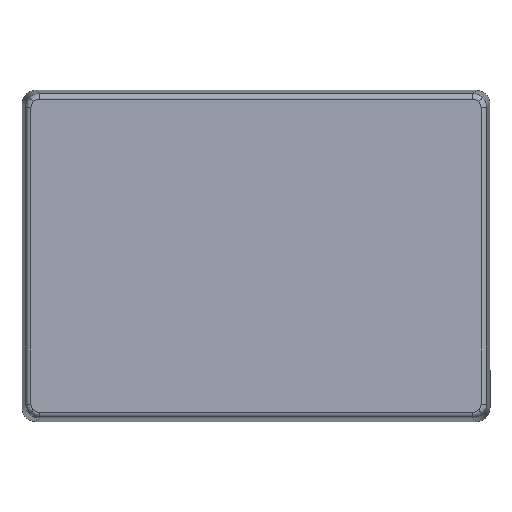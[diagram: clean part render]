
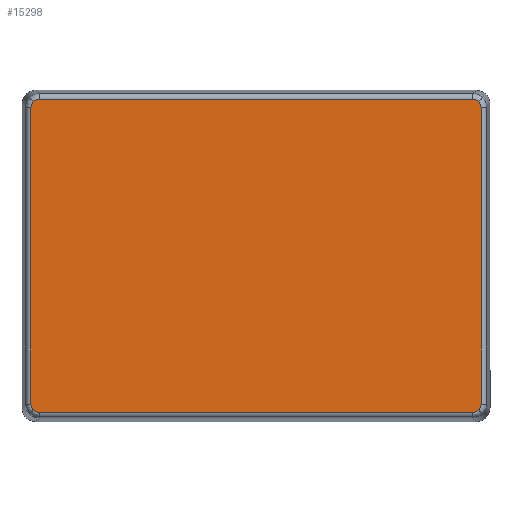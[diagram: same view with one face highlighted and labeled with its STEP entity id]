
A CAD part, top view. The second image highlights one B-rep face of the part: STEP entity #15298.
In plain terms, the highlighted planar face has unit normal (0, 0, 1).
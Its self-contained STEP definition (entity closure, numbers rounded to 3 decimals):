
#540=LINE('',#22723,#1702);
#541=LINE('',#22732,#1703);
#542=LINE('',#22741,#1704);
#543=LINE('',#22750,#1705);
#1702=VECTOR('',#17424,158.434);
#1703=VECTOR('',#17425,108.434);
#1704=VECTOR('',#17426,158.434);
#1705=VECTOR('',#17427,108.434);
#2767=PLANE('',#16249);
#3080=B_SPLINE_CURVE_WITH_KNOTS('',3,(#20508,#20509,#20510,#20511,#20512,
#20513,#20514),.UNSPECIFIED.,.F.,.F.,(4,3,4),(5.498,6.268,
6.283),.UNSPECIFIED.);
#3081=B_SPLINE_CURVE_WITH_KNOTS('',3,(#20543,#20544,#20545,#20546,#20547,
#20548,#20549),.UNSPECIFIED.,.F.,.F.,(4,3,4),(5.498,6.268,
6.283),.UNSPECIFIED.);
#3082=B_SPLINE_CURVE_WITH_KNOTS('',3,(#20578,#20579,#20580,#20581,#20582,
#20583,#20584),.UNSPECIFIED.,.F.,.F.,(4,3,4),(5.498,6.268,
6.283),.UNSPECIFIED.);
#3083=B_SPLINE_CURVE_WITH_KNOTS('',3,(#20613,#20614,#20615,#20616,#20617,
#20618,#20619),.UNSPECIFIED.,.F.,.F.,(4,3,4),(5.498,6.268,
6.283),.UNSPECIFIED.);
#3223=B_SPLINE_CURVE_WITH_KNOTS('',3,(#22725,#22726,#22727,#22728,#22729,
#22730,#22731),.UNSPECIFIED.,.F.,.F.,(4,3,4),(0.,0.769,0.785),
 .UNSPECIFIED.);
#3224=B_SPLINE_CURVE_WITH_KNOTS('',3,(#22734,#22735,#22736,#22737,#22738,
#22739,#22740),.UNSPECIFIED.,.F.,.F.,(4,3,4),(0.,0.769,0.785),
 .UNSPECIFIED.);
#3225=B_SPLINE_CURVE_WITH_KNOTS('',3,(#22743,#22744,#22745,#22746,#22747,
#22748,#22749),.UNSPECIFIED.,.F.,.F.,(4,3,4),(0.,0.769,
0.785),.UNSPECIFIED.);
#3226=B_SPLINE_CURVE_WITH_KNOTS('',3,(#22751,#22752,#22753,#22754,#22755,
#22756,#22757),.UNSPECIFIED.,.F.,.F.,(4,3,4),(0.,0.769,0.785),
 .UNSPECIFIED.);
#4129=FACE_OUTER_BOUND('',#5073,.T.);
#5073=EDGE_LOOP('',(#10721,#10722,#10723,#10724,#10725,#10726,#10727,#10728,
#10729,#10730,#10731,#10732));
#6508=VERTEX_POINT('',#20505);
#6509=VERTEX_POINT('',#20507);
#6512=VERTEX_POINT('',#20540);
#6513=VERTEX_POINT('',#20542);
#6516=VERTEX_POINT('',#20575);
#6517=VERTEX_POINT('',#20577);
#6520=VERTEX_POINT('',#20610);
#6521=VERTEX_POINT('',#20612);
#6763=VERTEX_POINT('',#22722);
#6764=VERTEX_POINT('',#22724);
#6765=VERTEX_POINT('',#22733);
#6766=VERTEX_POINT('',#22742);
#8073=EDGE_CURVE('',#6509,#6508,#3080,.T.);
#8077=EDGE_CURVE('',#6513,#6512,#3081,.T.);
#8081=EDGE_CURVE('',#6517,#6516,#3082,.T.);
#8085=EDGE_CURVE('',#6521,#6520,#3083,.T.);
#8332=EDGE_CURVE('',#6763,#6509,#540,.T.);
#8333=EDGE_CURVE('',#6508,#6764,#3223,.T.);
#8334=EDGE_CURVE('',#6764,#6513,#541,.T.);
#8335=EDGE_CURVE('',#6512,#6765,#3224,.T.);
#8336=EDGE_CURVE('',#6765,#6521,#542,.T.);
#8337=EDGE_CURVE('',#6520,#6766,#3225,.T.);
#8338=EDGE_CURVE('',#6766,#6517,#543,.T.);
#8339=EDGE_CURVE('',#6516,#6763,#3226,.T.);
#10721=ORIENTED_EDGE('',*,*,#8332,.T.);
#10722=ORIENTED_EDGE('',*,*,#8073,.T.);
#10723=ORIENTED_EDGE('',*,*,#8333,.T.);
#10724=ORIENTED_EDGE('',*,*,#8334,.T.);
#10725=ORIENTED_EDGE('',*,*,#8077,.T.);
#10726=ORIENTED_EDGE('',*,*,#8335,.T.);
#10727=ORIENTED_EDGE('',*,*,#8336,.T.);
#10728=ORIENTED_EDGE('',*,*,#8085,.T.);
#10729=ORIENTED_EDGE('',*,*,#8337,.T.);
#10730=ORIENTED_EDGE('',*,*,#8338,.T.);
#10731=ORIENTED_EDGE('',*,*,#8081,.T.);
#10732=ORIENTED_EDGE('',*,*,#8339,.T.);
#15298=ADVANCED_FACE('',(#4129),#2767,.T.);
#16249=AXIS2_PLACEMENT_3D('',#22721,#17422,#17423);
#17422=DIRECTION('center_axis',(0.,0.,1.));
#17423=DIRECTION('ref_axis',(1.,0.,0.));
#17424=DIRECTION('',(-1.,0.,0.));
#17425=DIRECTION('',(0.,-1.,0.));
#17426=DIRECTION('',(1.,0.,0.));
#17427=DIRECTION('',(0.,1.,0.));
#20505=CARTESIAN_POINT('',(-81.338,56.338,51.));
#20507=CARTESIAN_POINT('',(-79.217,57.216,51.));
#20508=CARTESIAN_POINT('Ctrl Pts',(-79.217,57.216,51.));
#20509=CARTESIAN_POINT('Ctrl Pts',(-79.967,57.216,51.));
#20510=CARTESIAN_POINT('Ctrl Pts',(-80.766,56.893,51.));
#20511=CARTESIAN_POINT('Ctrl Pts',(-81.306,56.37,51.));
#20512=CARTESIAN_POINT('Ctrl Pts',(-81.317,56.359,51.));
#20513=CARTESIAN_POINT('Ctrl Pts',(-81.327,56.349,51.));
#20514=CARTESIAN_POINT('Ctrl Pts',(-81.338,56.338,51.));
#20540=CARTESIAN_POINT('',(-81.338,-56.338,51.));
#20542=CARTESIAN_POINT('',(-82.216,-54.217,51.));
#20543=CARTESIAN_POINT('Ctrl Pts',(-82.216,-54.217,
51.));
#20544=CARTESIAN_POINT('Ctrl Pts',(-82.216,-54.967,
51.));
#20545=CARTESIAN_POINT('Ctrl Pts',(-81.893,-55.766,
51.));
#20546=CARTESIAN_POINT('Ctrl Pts',(-81.37,-56.306,
51.));
#20547=CARTESIAN_POINT('Ctrl Pts',(-81.359,-56.317,
51.));
#20548=CARTESIAN_POINT('Ctrl Pts',(-81.349,-56.327,51.));
#20549=CARTESIAN_POINT('Ctrl Pts',(-81.338,-56.338,
51.));
#20575=CARTESIAN_POINT('',(81.338,56.338,51.));
#20577=CARTESIAN_POINT('',(82.216,54.217,51.));
#20578=CARTESIAN_POINT('Ctrl Pts',(82.216,54.217,51.));
#20579=CARTESIAN_POINT('Ctrl Pts',(82.216,54.967,51.));
#20580=CARTESIAN_POINT('Ctrl Pts',(81.893,55.766,51.));
#20581=CARTESIAN_POINT('Ctrl Pts',(81.37,56.306,51.));
#20582=CARTESIAN_POINT('Ctrl Pts',(81.359,56.317,51.));
#20583=CARTESIAN_POINT('Ctrl Pts',(81.349,56.327,51.));
#20584=CARTESIAN_POINT('Ctrl Pts',(81.338,56.338,51.));
#20610=CARTESIAN_POINT('',(81.338,-56.338,51.));
#20612=CARTESIAN_POINT('',(79.217,-57.216,51.));
#20613=CARTESIAN_POINT('Ctrl Pts',(79.217,-57.216,51.));
#20614=CARTESIAN_POINT('Ctrl Pts',(79.967,-57.216,51.));
#20615=CARTESIAN_POINT('Ctrl Pts',(80.766,-56.893,51.));
#20616=CARTESIAN_POINT('Ctrl Pts',(81.306,-56.37,51.));
#20617=CARTESIAN_POINT('Ctrl Pts',(81.317,-56.359,51.));
#20618=CARTESIAN_POINT('Ctrl Pts',(81.327,-56.349,51.));
#20619=CARTESIAN_POINT('Ctrl Pts',(81.338,-56.338,51.));
#22721=CARTESIAN_POINT('Origin',(-85.5,-60.5,51.));
#22722=CARTESIAN_POINT('',(79.217,57.216,51.));
#22723=CARTESIAN_POINT('',(79.217,57.216,51.));
#22724=CARTESIAN_POINT('',(-82.216,54.217,51.));
#22725=CARTESIAN_POINT('Ctrl Pts',(-81.338,56.338,51.));
#22726=CARTESIAN_POINT('Ctrl Pts',(-81.868,55.808,51.));
#22727=CARTESIAN_POINT('Ctrl Pts',(-82.204,55.016,51.));
#22728=CARTESIAN_POINT('Ctrl Pts',(-82.216,54.264,51.));
#22729=CARTESIAN_POINT('Ctrl Pts',(-82.216,54.248,51.));
#22730=CARTESIAN_POINT('Ctrl Pts',(-82.216,54.233,51.));
#22731=CARTESIAN_POINT('Ctrl Pts',(-82.216,54.217,51.));
#22732=CARTESIAN_POINT('',(-82.216,54.217,51.));
#22733=CARTESIAN_POINT('',(-79.217,-57.216,51.));
#22734=CARTESIAN_POINT('Ctrl Pts',(-81.338,-56.338,
51.));
#22735=CARTESIAN_POINT('Ctrl Pts',(-80.808,-56.868,51.));
#22736=CARTESIAN_POINT('Ctrl Pts',(-80.016,-57.204,51.));
#22737=CARTESIAN_POINT('Ctrl Pts',(-79.264,-57.216,
51.));
#22738=CARTESIAN_POINT('Ctrl Pts',(-79.248,-57.216,
51.));
#22739=CARTESIAN_POINT('Ctrl Pts',(-79.233,-57.216,
51.));
#22740=CARTESIAN_POINT('Ctrl Pts',(-79.217,-57.216,
51.));
#22741=CARTESIAN_POINT('',(-79.217,-57.216,51.));
#22742=CARTESIAN_POINT('',(82.216,-54.217,51.));
#22743=CARTESIAN_POINT('Ctrl Pts',(81.338,-56.338,51.));
#22744=CARTESIAN_POINT('Ctrl Pts',(81.868,-55.808,51.));
#22745=CARTESIAN_POINT('Ctrl Pts',(82.204,-55.016,51.));
#22746=CARTESIAN_POINT('Ctrl Pts',(82.216,-54.264,51.));
#22747=CARTESIAN_POINT('Ctrl Pts',(82.216,-54.248,51.));
#22748=CARTESIAN_POINT('Ctrl Pts',(82.216,-54.233,51.));
#22749=CARTESIAN_POINT('Ctrl Pts',(82.216,-54.217,51.));
#22750=CARTESIAN_POINT('',(82.216,-54.217,51.));
#22751=CARTESIAN_POINT('Ctrl Pts',(81.338,56.338,51.));
#22752=CARTESIAN_POINT('Ctrl Pts',(80.808,56.868,51.));
#22753=CARTESIAN_POINT('Ctrl Pts',(80.016,57.204,51.));
#22754=CARTESIAN_POINT('Ctrl Pts',(79.264,57.216,51.));
#22755=CARTESIAN_POINT('Ctrl Pts',(79.248,57.216,51.));
#22756=CARTESIAN_POINT('Ctrl Pts',(79.233,57.216,51.));
#22757=CARTESIAN_POINT('Ctrl Pts',(79.217,57.216,51.));
